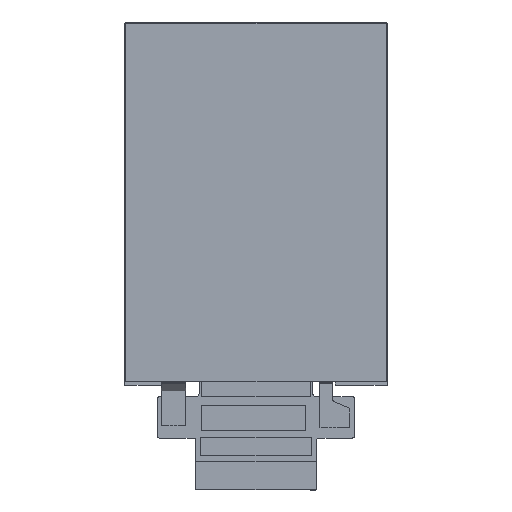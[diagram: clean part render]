
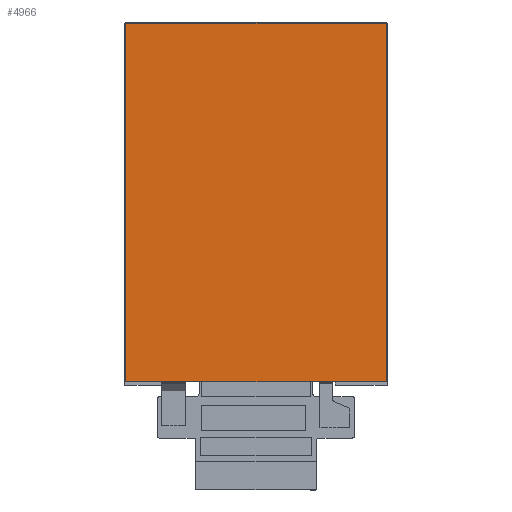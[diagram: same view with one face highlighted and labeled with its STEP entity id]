
A CAD part, top view. The second image highlights one B-rep face of the part: STEP entity #4966.
In plain terms, the highlighted planar face has unit normal (0, 0, 1).
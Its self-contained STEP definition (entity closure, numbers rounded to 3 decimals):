
#961 = VERTEX_POINT ( 'NONE', #11470 ) ;
#1159 = FACE_OUTER_BOUND ( 'NONE', #2785, .T. ) ;
#1187 = LINE ( 'NONE', #9288, #1522 ) ;
#1522 = VECTOR ( 'NONE', #4263, 1000. ) ;
#1624 = ORIENTED_EDGE ( 'NONE', *, *, #9668, .F. ) ;
#1987 = CARTESIAN_POINT ( 'NONE',  ( 49.8, 8.751, 1.2 ) ) ;
#2785 = EDGE_LOOP ( 'NONE', ( #9278, #5588, #3842, #1624 ) ) ;
#2844 = EDGE_CURVE ( 'NONE', #3062, #5200, #10823, .T. ) ;
#3062 = VERTEX_POINT ( 'NONE', #6248 ) ;
#3132 = DIRECTION ( 'NONE',  ( -1., 0., 0. ) ) ;
#3175 = DIRECTION ( 'NONE',  ( 0., 0., 1. ) ) ;
#3243 = DIRECTION ( 'NONE',  ( 0., -1., 0. ) ) ;
#3588 = LINE ( 'NONE', #9694, #10226 ) ;
#3842 = ORIENTED_EDGE ( 'NONE', *, *, #2844, .F. ) ;
#4263 = DIRECTION ( 'NONE',  ( 1., 0., 0. ) ) ;
#4860 = AXIS2_PLACEMENT_3D ( 'NONE', #8143, #3175, #3243 ) ;
#4966 = ADVANCED_FACE ( 'NONE', ( #1159 ), #9406, .T. ) ;
#5200 = VERTEX_POINT ( 'NONE', #8054 ) ;
#5588 = ORIENTED_EDGE ( 'NONE', *, *, #6923, .F. ) ;
#6136 = VECTOR ( 'NONE', #3132, 1000. ) ;
#6248 = CARTESIAN_POINT ( 'NONE',  ( 49.8, 8.751, 1.2 ) ) ;
#6923 = EDGE_CURVE ( 'NONE', #5200, #12580, #3588, .T. ) ;
#8054 = CARTESIAN_POINT ( 'NONE',  ( 0.2, 8.751, 1.2 ) ) ;
#8143 = CARTESIAN_POINT ( 'NONE',  ( 52.315, 124.962, 1.2 ) ) ;
#8163 = LINE ( 'NONE', #1987, #10487 ) ;
#9108 = CARTESIAN_POINT ( 'NONE',  ( 0.2, 77.151, 1.2 ) ) ;
#9184 = EDGE_CURVE ( 'NONE', #12580, #961, #1187, .T. ) ;
#9278 = ORIENTED_EDGE ( 'NONE', *, *, #9184, .F. ) ;
#9288 = CARTESIAN_POINT ( 'NONE',  ( 49.8, 77.151, 1.2 ) ) ;
#9406 = PLANE ( 'NONE',  #4860 ) ;
#9668 = EDGE_CURVE ( 'NONE', #961, #3062, #8163, .T. ) ;
#9694 = CARTESIAN_POINT ( 'NONE',  ( 0.2, 77.151, 1.2 ) ) ;
#10226 = VECTOR ( 'NONE', #11600, 1000. ) ;
#10487 = VECTOR ( 'NONE', #12204, 1000. ) ;
#10823 = LINE ( 'NONE', #10888, #6136 ) ;
#10888 = CARTESIAN_POINT ( 'NONE',  ( 0.2, 8.751, 1.2 ) ) ;
#11470 = CARTESIAN_POINT ( 'NONE',  ( 49.8, 77.151, 1.2 ) ) ;
#11600 = DIRECTION ( 'NONE',  ( 0., 1., 0. ) ) ;
#12204 = DIRECTION ( 'NONE',  ( 0., -1., 0. ) ) ;
#12580 = VERTEX_POINT ( 'NONE', #9108 ) ;
